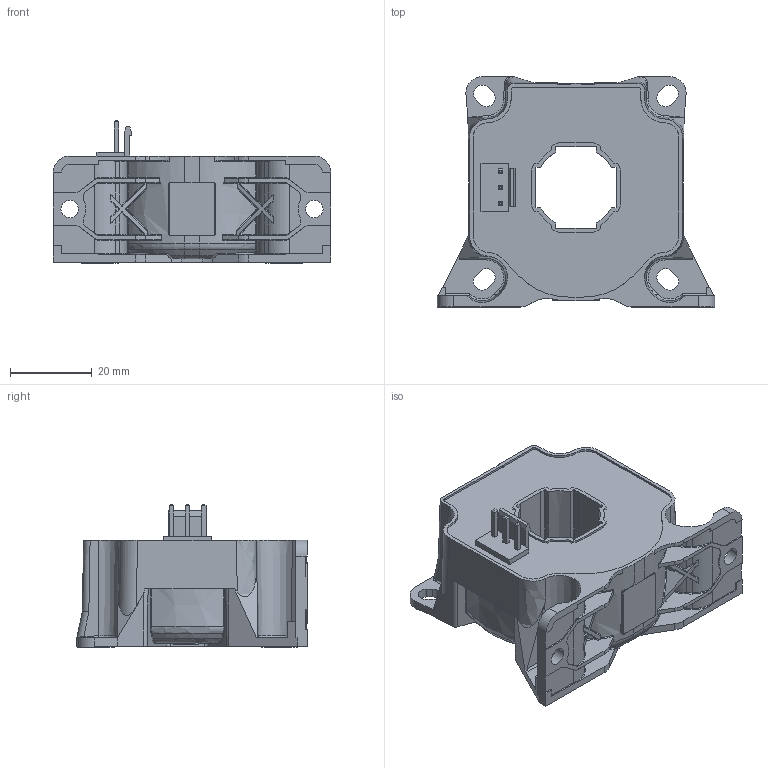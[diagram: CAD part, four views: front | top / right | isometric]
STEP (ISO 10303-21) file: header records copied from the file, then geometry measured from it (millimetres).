
FILE_DESCRIPTION(('Creo Elements/Direct Modeling STEP Export'),'2;1');
FILE_NAME('LF310-S-SP6.stp','2016-03-21T14:27:11',(''),(''),'PTC Creo Elements/Direct Modeling STEP processor for AP214 (Solid Model)','PTC Creo Elements/Direct Modeling 19.0B 21-Mar-2015 (C) Parametric Technology GmbH','');
FILE_SCHEMA(('AUTOMOTIVE_DESIGN { 1 0 10303 214 1 1 1 1 }'));
Products named in the file (2): BBox_outline_C
Assembly tree (1 placements, depth 2):
  BBox_outline_C
    BBox_outline_C
Bounding box: 68 x 56.48 x 34.95 mm (x, y, z)
Volume: 50483.6 mm3; surface area: 17920 mm2
Topology: 1 solids, 1 shells, 1518 faces, 3936 edges, 2451 vertices
Faces by surface type: bspline 595, plane 592, cylinder 176, cone 97, torus 34, extrusion 24
Entity records: 136978 total; most frequent: CARTESIAN_POINT 105146, ORIENTED_EDGE 7848, DIRECTION 4232, EDGE_CURVE 3924, VERTEX_POINT 2451, VECTOR 1594, EDGE_LOOP 1575, LINE 1570
